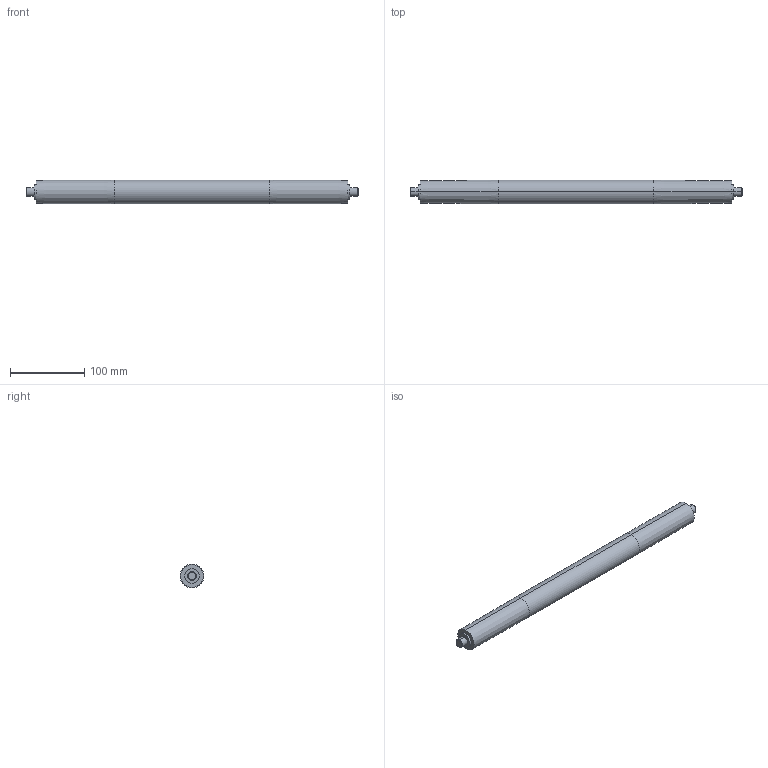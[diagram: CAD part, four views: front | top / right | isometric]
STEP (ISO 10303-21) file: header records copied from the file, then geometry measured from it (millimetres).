
FILE_DESCRIPTION (( 'STEP AP214' ), '1' );
FILE_NAME ('084.030.133.STEP', '2021-02-05T15:42:27', ( '' ), ( '' ), 'SwSTEP 2.0', 'SolidWorks 2018', '' );
FILE_SCHEMA (( 'AUTOMOTIVE_DESIGN' ));
Length unit declared in the file: millimetre
Products named in the file (1): 084.030.133
Bounding box: 448 x 32 x 32 mm (x, y, z)
Volume: 336898.6 mm3; surface area: 44562.5 mm2
Topology: 1 solids, 1 shells, 24 faces, 46 edges, 28 vertices
Faces by surface type: cylinder 10, cone 8, plane 6
Entity records: 648 total; most frequent: DIRECTION 124, CARTESIAN_POINT 99, ORIENTED_EDGE 92, AXIS2_PLACEMENT_3D 53, EDGE_CURVE 46, CIRCLE 28, VERTEX_POINT 28, EDGE_LOOP 28
